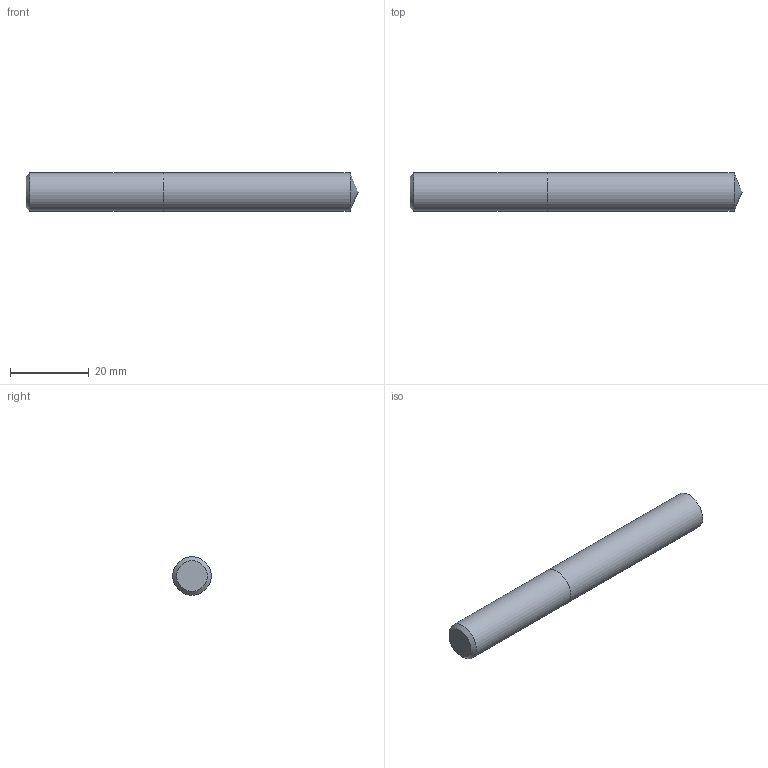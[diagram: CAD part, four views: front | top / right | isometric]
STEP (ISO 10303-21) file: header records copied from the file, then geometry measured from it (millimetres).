
FILE_DESCRIPTION (( 'STEP AP214' ), '1' );
FILE_NAME ('03-2339.STEP', '2022-06-03T06:25:51', ( 'USER' ), ( '' ), 'SwSTEP 2.0', 'SolidWorks 2018', '' );
FILE_SCHEMA (( 'AUTOMOTIVE_DESIGN' ));
Length unit declared in the file: inch
Products named in the file (1): 03-2339
Bounding box: 84.58 x 9.8 x 9.8 mm (x, y, z)
Volume: 6269.6 mm3; surface area: 2831.9 mm2
Topology: 2 solids, 2 shells, 7 faces, 11 edges, 7 vertices
Faces by surface type: plane 3, cylinder 2, cone 2
Full cylindrical faces by diameter (mm): 9.804 x2
Entity records: 214 total; most frequent: DIRECTION 26, CARTESIAN_POINT 18, AXIS2_PLACEMENT_3D 13, EDGE_LOOP 10, ORIENTED_EDGE 10, FACE_OUTER_BOUND 9, ADVANCED_FACE 7, UNCERTAINTY_MEASURE_WITH_UNIT 7
